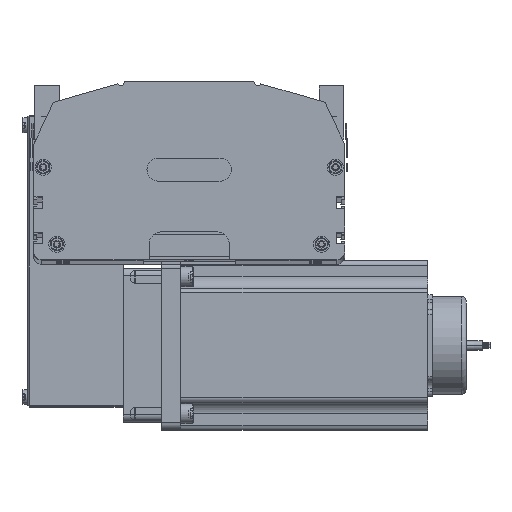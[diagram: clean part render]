
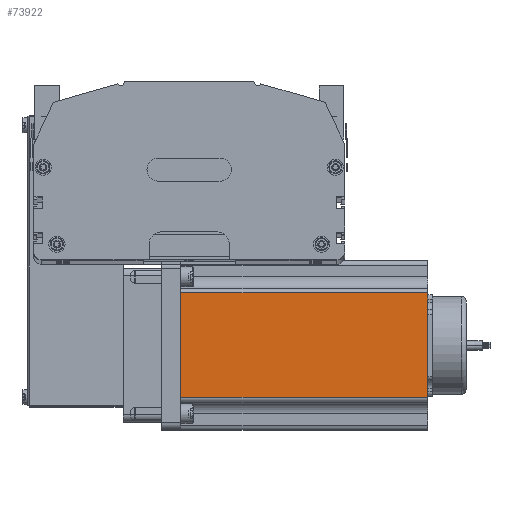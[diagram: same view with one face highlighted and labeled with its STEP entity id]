
A CAD part, top view. The second image highlights one B-rep face of the part: STEP entity #73922.
In plain terms, the highlighted planar face has unit normal (0, 0, 1) as drawn and (0, -1, 0) by its records, which use the part's own axes.
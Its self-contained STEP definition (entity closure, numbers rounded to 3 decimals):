
#31232 = LINE ( 'NONE', #31430, #31426 ) ;
#31424 = DIRECTION ( 'NONE',  ( 1., 0., 0. ) ) ;
#31426 = VECTOR ( 'NONE', #31424, 1000. ) ;
#31430 = CARTESIAN_POINT ( 'NONE',  ( 0., 0., 0. ) ) ;
#31446 = FACE_OUTER_BOUND ( 'NONE', #73973, .T. ) ;
#31457 = CARTESIAN_POINT ( 'NONE',  ( 0., 0., 160.5 ) ) ;
#31470 = LINE ( 'NONE', #31647, #31614 ) ;
#31479 = PLANE ( 'NONE',  #31646 ) ;
#31573 = DIRECTION ( 'NONE',  ( 0., 0., -1. ) ) ;
#31576 = VECTOR ( 'NONE', #31573, 1000. ) ;
#31585 = CARTESIAN_POINT ( 'NONE',  ( 21.048, 0., 160.5 ) ) ;
#31587 = LINE ( 'NONE', #31585, #31576 ) ;
#31593 = DIRECTION ( 'NONE',  ( 1., 0., 0. ) ) ;
#31594 = VECTOR ( 'NONE', #31593, 1000. ) ;
#31596 = CARTESIAN_POINT ( 'NONE',  ( 0., 0., 160.5 ) ) ;
#31599 = LINE ( 'NONE', #31596, #31594 ) ;
#31612 = DIRECTION ( 'NONE',  ( 0., 0., 1. ) ) ;
#31614 = VECTOR ( 'NONE', #31612, 1000. ) ;
#31623 = CARTESIAN_POINT ( 'NONE',  ( 88.952, 0., 160.5 ) ) ;
#31627 = DIRECTION ( 'NONE',  ( 0., 0., 1. ) ) ;
#31630 = DIRECTION ( 'NONE',  ( 0., 1., 0. ) ) ;
#31642 = CARTESIAN_POINT ( 'NONE',  ( 88.952, 0., 0. ) ) ;
#31646 = AXIS2_PLACEMENT_3D ( 'NONE', #31457, #31630, #31627 ) ;
#31647 = CARTESIAN_POINT ( 'NONE',  ( 88.952, 0., 160.5 ) ) ;
#31653 = CARTESIAN_POINT ( 'NONE',  ( 21.048, 0., 160.5 ) ) ;
#31673 = CARTESIAN_POINT ( 'NONE',  ( 21.048, 0., 0. ) ) ;
#73856 = EDGE_CURVE ( 'NONE', #73963, #73925, #31232, .T. ) ;
#73922 = ADVANCED_FACE ( 'NONE', ( #31446 ), #31479, .F. ) ;
#73925 = VERTEX_POINT ( 'NONE', #31642 ) ;
#73927 = VERTEX_POINT ( 'NONE', #31623 ) ;
#73930 = ORIENTED_EDGE ( 'NONE', *, *, #73931, .T. ) ;
#73931 = EDGE_CURVE ( 'NONE', #73925, #73927, #31470, .T. ) ;
#73934 = EDGE_CURVE ( 'NONE', #73936, #73927, #31599, .T. ) ;
#73936 = VERTEX_POINT ( 'NONE', #31653 ) ;
#73940 = EDGE_CURVE ( 'NONE', #73936, #73963, #31587, .T. ) ;
#73961 = ORIENTED_EDGE ( 'NONE', *, *, #73856, .T. ) ;
#73963 = VERTEX_POINT ( 'NONE', #31673 ) ;
#73973 = EDGE_LOOP ( 'NONE', ( #73961, #73930, #73975, #73978 ) ) ;
#73975 = ORIENTED_EDGE ( 'NONE', *, *, #73934, .F. ) ;
#73978 = ORIENTED_EDGE ( 'NONE', *, *, #73940, .T. ) ;
